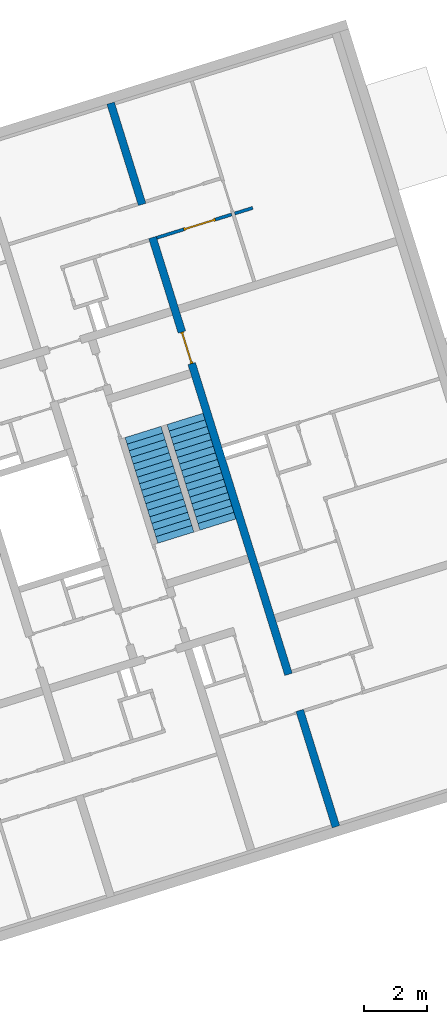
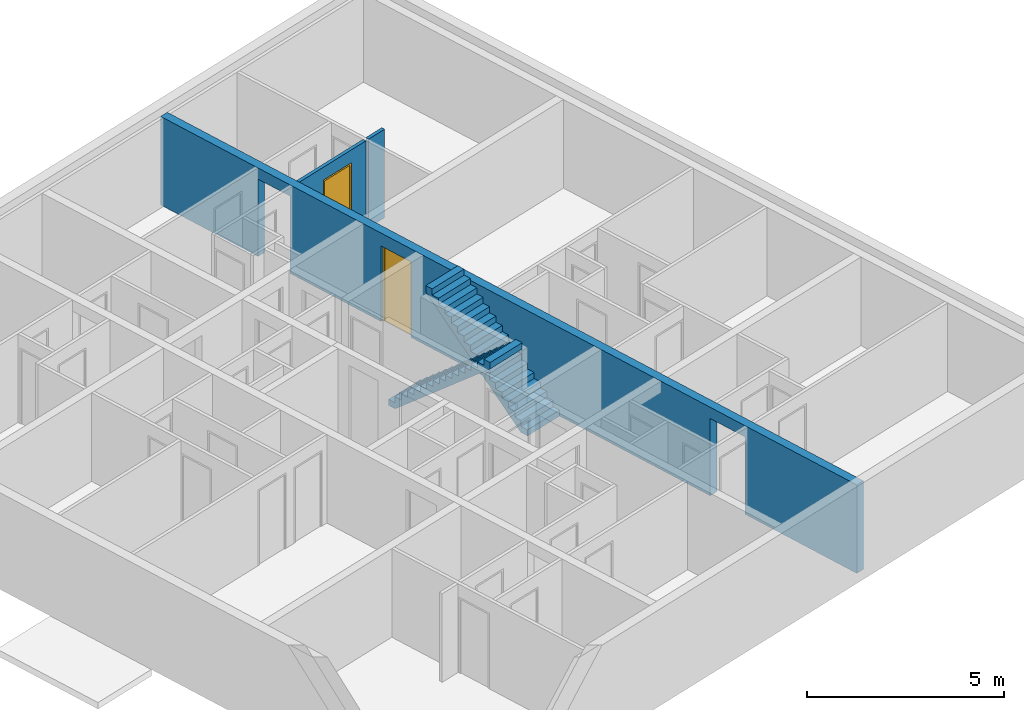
# One storey, part 9 of 9: 2 doors, 2 stair flights, 2 walls, 5 openings, 2 elements without a shape of their own.
"""IFC4 building model written with IfcOpenShell, lengths in metres."""

from ifc_helpers import new_model, entity, si_unit, converted_unit, direction, frame, origin, place, context, subcontext, project, spatial, indexed_curve, outline, extrude, polygons, source, transform, mapped, material, constituent, constituent_set, type_object, type_shapes, element, fill, aggregate, save


model = new_model("IFC4")

# Units and contexts
model_context = context("Model", 3, precision=1e-05, world=origin(), true_north=direction((6.12323399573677e-17, 1.0)))
body_context = subcontext(model_context, "Body", "Model", "MODEL_VIEW")
ifc_project = project(units=[si_unit("LENGTHUNIT", "METRE"), si_unit("AREAUNIT", "SQUARE_METRE"), si_unit("VOLUMEUNIT", "CUBIC_METRE"), converted_unit("PLANEANGLEUNIT", "DEGREE", entity("IfcPlaneAngleMeasure", 0.0174532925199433), si_unit("PLANEANGLEUNIT", "RADIAN"), dimensions=[0, 0, 0, 0, 0, 0, 0])], contexts=[model_context])

# Site, building, storey
site_placement = place(None, frame((13.1347999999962, 11.9886000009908, 0.0), z_axis=(0.0, 0.0, 1.0), x_axis=(0.954770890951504, 0.297342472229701, 0.0)))
site = spatial("IfcSite", under=ifc_project, at=site_placement, Name="Schiehaven", CompositionType="ELEMENT")
building_placement = place(site_placement, origin())
building = spatial("IfcBuilding", under=site, at=building_placement, Name="VORM huis", CompositionType="ELEMENT")
storey_placement = place(building_placement, frame((0.0, 0.0, 15.9)))
storey = spatial("IfcBuildingStorey", under=building, at=storey_placement, Name="05 vijfde verdieping", CompositionType="ELEMENT", Elevation=15.9)

# Wall, openings, door
ifc_material_1 = material(Name="beton_gewapend_ihw", Category="Miscellaneous")
wall_type_1 = type_object("IfcWallType", Name="Basic Wall:28_WA_skelet_wand 250mm_gen", PredefinedType="STANDARD")
wall_1_placement = place(storey_placement, frame((20.0, 29.0999999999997, 0.0), z_axis=(0.0, 0.0, 1.0), x_axis=(0.0, -1.0, 0.0)))
wall_1 = element("IfcWall", 1, at=wall_1_placement, inside=storey, type_object=wall_type_1, material=ifc_material_1, Name="Constructieve wand", ObjectType="Wand", PredefinedType="NOTDEFINED", context=body_context, shape_type="Tessellation", body=[
    polygons([(8.67499999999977, -0.124999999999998, 2.34999999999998), (8.67499999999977, -0.124999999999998, -2.16573425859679e-15), (19.0249999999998, -0.124999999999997, -2.16573425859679e-15), (19.0249999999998, -0.124999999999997, 2.4), (20.2249999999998, -0.125000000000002, 2.4), (20.2249999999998, -0.124999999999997, -2.16573425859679e-15), (24.1, -0.124999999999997, -2.16573425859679e-15), (24.1, -0.124999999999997, 2.75), (7.025, -0.124999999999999, 2.75), (6.775, -0.125, 2.75), (4.33146851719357e-15, -0.124999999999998, 2.75), (4.33146851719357e-15, -0.124999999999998, -2.16573425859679e-15), (3.37499999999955, -0.124999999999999, -2.16573425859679e-15), (3.37499999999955, -0.124999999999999, 2.4), (4.47499999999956, -0.124999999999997, 2.4), (4.47499999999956, -0.124999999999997, -2.16573425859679e-15), (6.775, -0.125, -2.16573425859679e-15), (7.025, -0.124999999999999, -2.16573425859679e-15), (7.62499999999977, -0.124999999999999, -2.16573425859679e-15), (7.62499999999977, -0.124999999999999, 2.34999999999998), (19.0249999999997, 0.125000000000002, -2.16573425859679e-15), (8.67499999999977, 0.125000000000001, -2.16573425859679e-15), (8.67499999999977, 0.125000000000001, 2.34999999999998), (7.62499999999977, 0.125, 2.34999999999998), (7.62499999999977, 0.125, -2.16573425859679e-15), (4.47499999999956, 0.125000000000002, -2.16573425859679e-15), (4.47499999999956, 0.125000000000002, 2.4), (3.37499999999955, 0.125, 2.4), (3.37499999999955, 0.125, -2.16573425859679e-15), (0.0, 0.125000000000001, -2.16573425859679e-15), (0.0, 0.125000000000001, 2.75), (24.1, 0.125000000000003, 2.75), (24.1, 0.125000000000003, -2.16573425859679e-15), (20.2249999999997, 0.125000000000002, -2.16573425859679e-15), (20.2249999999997, 0.125000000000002, 2.4), (19.0249999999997, 0.125000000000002, 2.4)], [[[1, 2, 3, 4, 5, 6, 7, 8, 9, 10, 11, 12, 13, 14, 15, 16, 17, 18, 19, 20]], [[21, 22, 23, 24, 25, 26, 27, 28, 29, 30, 31, 32, 33, 34, 35, 36]], [[12, 30, 29, 13]], [[8, 7, 33, 32]], [[11, 10, 9, 8, 32, 31]], [[12, 11, 31, 30]], [[14, 28, 27, 15]], [[28, 14, 13, 29]], [[15, 27, 26, 16]], [[4, 36, 35, 5]], [[36, 4, 3, 21]], [[5, 35, 34, 6]], [[25, 24, 20, 19]], [[23, 22, 2, 1]], [[24, 23, 1, 20]], [[19, 18, 17, 16, 26, 25]], [[3, 2, 22, 21]], [[33, 7, 6, 34]]], closed=True),
])
opening_1_placement = place(wall_1_placement, origin())
element("IfcOpeningElement", 2, at=opening_1_placement, cuts=wall_1, Name="Constructieve wand", PredefinedType="OPENING", context=body_context, shape_type="SweptSolid", body=[
    extrude(outline(indexed_curve([(-1.2, -0.550000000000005), (1.2, -0.550000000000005), (1.2, 0.550000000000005), (-1.2, 0.550000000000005), (-1.2, -0.550000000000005)], self_intersect=False)), frame((3.92499999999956, -0.125000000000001, 1.2), z_axis=(0.0, 1.0, 0.0), x_axis=(0.0, 0.0, -1.0)), (0.0, 0.0, 1.0), 0.250000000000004),
])
opening_2_placement = place(wall_1_placement, origin())
element("IfcOpeningElement", 3, at=opening_2_placement, cuts=wall_1, Name="Constructieve wand", PredefinedType="OPENING", context=body_context, shape_type="SweptSolid", body=[
    extrude(outline(indexed_curve([(-1.2, -0.599999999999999), (1.2, -0.599999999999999), (1.2, 0.599999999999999), (-1.2, 0.599999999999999), (-1.2, -0.599999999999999)], self_intersect=False)), frame((19.6249999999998, -0.125000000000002, 1.2), z_axis=(0.0, 1.0, 0.0), x_axis=(0.0, 0.0, -1.0)), (0.0, 0.0, 1.0), 0.250000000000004),
])
opening_3_placement = place(wall_1_placement, frame((8.67499999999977, 0.125000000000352, 0.0)))
opening_3 = element("IfcOpeningElement", 4, at=opening_3_placement, cuts=wall_1, Name="Binnendeur", PredefinedType="OPENING", context=body_context, shape_type="SweptSolid", body=[
    extrude(outline(indexed_curve([(2.34999999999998, 1.05), (0.0, 1.05), (0.0, -7.44152288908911e-29), (2.34999999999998, -7.44152288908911e-29), (2.34999999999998, 1.05)], self_intersect=False)), frame((0.0, 0.0, 0.0), z_axis=(0.0, -1.0, 0.0), x_axis=(0.0, 0.0, 1.0)), (0.0, 0.0, 1.0), 0.25),
])
ifc_material_2 = material(Name="PD_a_binnenwandopeningen", Category="Miscellaneous")
ifc_constituent_1 = constituent(ifc_material_2, Name="PD_a_binnenwandopeningen", Category="Miscellaneous")
ifc_material_3 = material(Name="metaal_aluminium_ntb", Category="Miscellaneous")
ifc_constituent_2 = constituent(ifc_material_3, Name="metaal_aluminium_ntb", Category="Miscellaneous")
ifc_constituent_set_1 = constituent_set(constituents=[ifc_constituent_1, ifc_constituent_2])
door_type = type_object("IfcDoorType", Name="32_DO_binnendeur enkel:binnendeur", OperationType="REVOLVING", PredefinedType="DOOR")
shared_shape_1 = source(origin(), body_context, "Body", "SweptSolid", [
    extrude(outline(indexed_curve([(-1.16249999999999, -0.525000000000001), (1.18749999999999, -0.525), (1.18749999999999, 0.525000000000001), (-1.16249999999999, 0.525000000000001), (-1.16249999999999, 0.475), (1.13749999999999, 0.475), (1.13749999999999, -0.475), (-1.16249999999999, -0.475), (-1.16249999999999, -0.525000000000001)], self_intersect=False)), frame((0.525000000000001, 0.0749999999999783, 1.16249999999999), z_axis=(0.0, 1.0, 0.0), x_axis=(0.0, 0.0, 1.0)), (0.0, 0.0, 1.0), 0.1),
    extrude(outline(indexed_curve([(-0.025, -0.475), (0.025, -0.475), (0.025, 0.475), (-0.025, 0.475), (-0.025, -0.475)], self_intersect=False)), frame((0.525000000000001, 0.12499999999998, 0.0), z_axis=(0.0, 0.0, 1.0), x_axis=(0.0, 1.0, 0.0)), (0.0, 0.0, 1.0), 2.29999999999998),
])
door_1_placement = place(opening_3_placement, frame((0.0, 0.0, 0.0), z_axis=(0.0, 0.0, 1.0), x_axis=(-1.0, 0.0, 0.0)))
door_1 = element("IfcDoor", 5, at=door_1_placement, inside=storey, type_object=door_type, material=ifc_constituent_set_1, Name="Binnendeur", ObjectType="Deur", OperationType="REVOLVING", OverallHeight=2.34999999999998, OverallWidth=1.05, PredefinedType="DOOR", context=body_context, shape_type="MappedRepresentation", body=[
    mapped(shared_shape_1, transform((0.0, 0.0, 0.0), scale=1.0)),
])
fill(opening_3, door_1)

ifc_material_4 = material(Name="ntb_ntb_ntb", Category="Miscellaneous")
wall_type_2 = type_object("IfcWallType", Name="Basic Wall:22_WA_afbouw_binnenwand 100mm_gen", PredefinedType="STANDARD")
wall_2_placement = place(storey_placement, frame((20.1250000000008, 24.5750000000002, 0.0)))
wall_2 = element("IfcWall", 6, at=wall_2_placement, inside=storey, type_object=wall_type_2, material=ifc_material_4, Name="Binnenwand", ObjectType="Wand", PredefinedType="NOTDEFINED", context=body_context, shape_type="Tessellation", body=[
    polygons([(3.45443588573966e-16, -0.0499999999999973, 2.75), (3.45443588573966e-16, -0.0499999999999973, 0.0), (0.899999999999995, -0.049999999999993, 0.0), (0.899999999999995, -0.049999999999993, 2.34999999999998), (1.94999999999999, -0.0499999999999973, 2.34999999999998), (1.95, -0.0499999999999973, 0.0), (2.50000000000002, -0.049999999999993, 0.0), (2.50000000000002, -0.049999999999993, 2.75), (-1.52526066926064e-15, 0.0500000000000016, 0.0), (0.899999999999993, 0.050000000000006, 0.0), (-1.52526066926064e-15, 0.0500000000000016, 2.75), (1.94999999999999, 0.0500000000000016, 2.34999999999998), (1.95, 0.0500000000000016, 0.0), (0.899999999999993, 0.050000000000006, 2.34999999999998), (2.50000000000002, 0.050000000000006, 0.0), (2.50000000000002, 0.050000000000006, 2.75)], [[[1, 2, 3, 4, 5, 6, 7, 8]], [[2, 9, 10, 3]], [[2, 1, 11, 9]], [[6, 5, 12, 13]], [[4, 3, 10, 14]], [[5, 4, 14, 12]], [[8, 7, 15, 16]], [[11, 1, 8, 16]], [[6, 13, 15, 7]], [[9, 11, 16, 15, 13, 12, 14, 10]]], closed=True),
    polygons([(3.2, 0.050000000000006, 2.75), (3.2, 0.050000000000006, 0.0), (2.60000000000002, 0.0500000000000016, 0.0), (2.60000000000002, 0.0500000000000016, 2.75), (3.2, -0.049999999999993, 2.75), (3.2, -0.049999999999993, 0.0), (2.60000000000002, -0.0499999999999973, 2.75), (2.60000000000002, -0.0499999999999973, 0.0)], [[[1, 2, 3, 4]], [[5, 6, 2, 1]], [[5, 1, 4, 7]], [[8, 7, 4, 3]], [[2, 6, 8, 3]], [[6, 5, 7, 8]]], closed=True),
])
opening_4_placement = place(storey_placement, frame((20.1250000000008, 24.5750000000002, 0.0)))
element("IfcOpeningElement", 7, at=opening_4_placement, cuts=wall_2, Name="Binnenwand:1", PredefinedType="OPENING", context=body_context, shape_type="SweptSolid", body=[
    extrude(outline(indexed_curve([(-1.375, -0.0499999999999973), (1.375, -0.0499999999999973), (1.375, 0.0500000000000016), (-1.375, 0.0500000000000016), (-1.375, -0.0499999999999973)], self_intersect=False)), frame((2.50000000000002, 0.0, 1.375), z_axis=(1.0, 0.0, 0.0), x_axis=(0.0, 0.0, -1.0)), (0.0, 0.0, 1.0), 0.0999999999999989),
])
opening_5_placement = place(wall_2_placement, frame((0.899999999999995, -0.050000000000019, 0.0)))
opening_5 = element("IfcOpeningElement", 8, at=opening_5_placement, cuts=wall_2, Name="Binnendeur", PredefinedType="OPENING", context=body_context, shape_type="SweptSolid", body=[
    extrude(outline(indexed_curve([(2.34999999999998, 1.05), (0.0, 1.05), (0.0, 0.0), (2.34999999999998, 0.0), (2.34999999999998, 1.05)], self_intersect=False)), frame((0.0, 0.0, 0.0), z_axis=(0.0, 1.0, 0.0), x_axis=(0.0, 0.0, 1.0)), (0.0, 0.0, 1.0), 0.1),
])
ifc_constituent_3 = constituent(ifc_material_2, Name="PD_a_binnenwandopeningen", Category="Miscellaneous")
ifc_constituent_4 = constituent(ifc_material_3, Name="metaal_aluminium_ntb", Category="Miscellaneous")
ifc_constituent_set_2 = constituent_set(constituents=[ifc_constituent_3, ifc_constituent_4])
shared_shape_2 = source(origin(), body_context, "Body", "SweptSolid", [
    extrude(outline(indexed_curve([(-1.16249999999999, -0.525000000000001), (1.18749999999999, -0.525), (1.18749999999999, 0.525), (-1.16249999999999, 0.525), (-1.16249999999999, 0.475), (1.13749999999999, 0.475), (1.13749999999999, -0.475), (-1.16249999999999, -0.475), (-1.16249999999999, -0.525000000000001)], self_intersect=False)), frame((0.525000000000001, 0.0, 1.16249999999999), z_axis=(0.0, 1.0, 0.0), x_axis=(0.0, 0.0, 1.0)), (0.0, 0.0, 1.0), 0.1),
    extrude(outline(indexed_curve([(-0.025, -0.475), (0.025, -0.475), (0.025, 0.475), (-0.025, 0.475), (-0.025, -0.475)], self_intersect=False)), frame((0.525000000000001, 0.0499999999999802, 0.0), z_axis=(0.0, 0.0, 1.0), x_axis=(0.0, 1.0, 0.0)), (0.0, 0.0, 1.0), 2.29999999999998),
])
type_shapes(door_type, [shared_shape_2])
door_2_placement = place(opening_5_placement, origin())
door_2 = element("IfcDoor", 9, at=door_2_placement, inside=storey, type_object=door_type, material=ifc_constituent_set_2, Name="Binnendeur", ObjectType="Deur", OperationType="REVOLVING", OverallHeight=2.34999999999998, OverallWidth=1.05, PredefinedType="DOOR", context=body_context, shape_type="MappedRepresentation", body=[
    mapped(shared_shape_2, transform((0.0, 0.0, 0.0), scale=1.0)),
])
fill(opening_5, door_2)

# Stair, stair flight
stair_type = type_object("IfcStairType", Name="Trap", PredefinedType="STRAIGHT_RUN_STAIR")
stair_1_placement = place(storey_placement, origin())
stair_1 = element("IfcStair", 10, at=stair_1_placement, inside=storey, type_object=stair_type, Name="Hoofdtrap", ObjectType="Precast Stair:NLRS_24_STR_reguliere trap-woonfunctie-breedte 1200mm_gen", PredefinedType="STRAIGHT_RUN_STAIR")
ifc_material_5 = material(Name="beton_gewapend_prefab-element", Category="Miscellaneous")
stair_flight_type = type_object("IfcStairFlightType", Name="Monolithic Run:NLRS_24_STRR_trap-beton prefab-monolithisch-recht_gen_rsf", PredefinedType="STRAIGHT")
stair_flight_1_placement = place(stair_1_placement, frame((18.6750000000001, 15.29, 0.0)))
stair_flight_1 = element("IfcStairFlight", 11, at=stair_flight_1_placement, type_object=stair_flight_type, material=ifc_material_5, Name="Hoofdtrap Run 1", ObjectType="Monolithic Run:NLRS_24_STRR_trap-beton prefab-monolithisch-recht_gen_rsf", PredefinedType="STRAIGHT", context=body_context, shape_type="Tessellation", body=[
    polygons([(0.0, 0.220000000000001, 0.187500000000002), (-3.5527136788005e-15, 0.0, 0.187500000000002), (1.2, 0.0, 0.187500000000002), (1.2, 0.219999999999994, 0.187500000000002), (0.0, 0.22000000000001, 0.0), (-3.5527136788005e-15, 0.0, 0.0), (1.2, 0.0, 0.0), (1.2, 0.219999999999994, 0.0), (0.0, 0.44, 0.374999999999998), (-3.5527136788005e-15, 0.219999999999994, 0.374999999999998), (1.2, 0.219999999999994, 0.374999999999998), (1.2, 0.439999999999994, 0.374999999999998), (0.0, 0.439999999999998, 0.177912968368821), (0.0, 0.231248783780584, 0.0), (1.2, 0.231248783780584, 0.0), (1.2, 0.439999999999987, 0.17791296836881), (0.0, 0.659999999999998, 0.562499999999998), (0.0, 0.439999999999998, 0.562499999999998), (1.2, 0.439999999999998, 0.562499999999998), (1.2, 0.659999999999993, 0.562499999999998), (0.0, 0.660000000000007, 0.365412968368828), (1.2, 0.659999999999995, 0.365412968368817), (0.0, 0.879999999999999, 0.750000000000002), (0.0, 0.659999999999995, 0.750000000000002), (1.2, 0.659999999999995, 0.750000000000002), (1.2, 0.879999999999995, 0.750000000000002), (0.0, 0.879999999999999, 0.552912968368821), (1.2, 0.879999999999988, 0.55291296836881), (3.5527136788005e-15, 1.1, 0.937499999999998), (0.0, 0.880000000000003, 0.937499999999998), (1.2, 0.880000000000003, 0.937499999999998), (1.2, 1.09999999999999, 0.937499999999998), (0.0, 1.1, 0.740412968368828), (1.2, 1.1, 0.740412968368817), (3.5527136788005e-15, 1.32, 1.125), (0.0, 1.09999999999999, 1.125), (1.2, 1.09999999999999, 1.125), (1.2, 1.31999999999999, 1.125), (0.0, 1.32, 0.927912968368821), (1.2, 1.31999999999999, 0.92791296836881), (7.105427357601e-15, 1.54, 1.3125), (0.0, 1.32, 1.3125), (1.2, 1.32, 1.3125), (1.2, 1.54, 1.3125), (7.105427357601e-15, 1.54000000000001, 1.11541296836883), (1.2, 1.54, 1.11541296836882), (7.105427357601e-15, 1.76, 1.5), (0.0, 1.54, 1.5), (1.2, 1.54, 1.5), (1.2, 1.75999999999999, 1.5), (7.105427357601e-15, 1.76, 1.30291296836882), (1.2, 1.75999999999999, 1.30291296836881), (7.105427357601e-15, 1.98, 1.6875), (7.105427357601e-15, 1.76, 1.6875), (1.2, 1.76, 1.6875), (1.2, 1.97999999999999, 1.6875), (7.105427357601e-15, 1.98000000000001, 1.49041296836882), (1.2, 1.97999999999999, 1.49041296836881), (7.105427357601e-15, 2.2, 1.875), (7.105427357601e-15, 1.97999999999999, 1.875), (1.2, 1.97999999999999, 1.875), (1.2, 2.2, 1.875), (7.105427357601e-15, 2.2, 1.67791296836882), (1.2, 2.19999999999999, 1.67791296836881), (1.06581410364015e-14, 2.42, 2.0625), (7.105427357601e-15, 2.2, 2.0625), (1.2, 2.2, 2.0625), (1.2, 2.41999999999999, 2.0625), (1.06581410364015e-14, 2.42000000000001, 1.86541296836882), (1.2, 2.41999999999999, 1.86541296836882), (1.06581410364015e-14, 2.64, 2.25), (7.105427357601e-15, 2.41999999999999, 2.25), (1.2, 2.41999999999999, 2.25), (1.2, 2.63999999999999, 2.25), (1.06581410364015e-14, 2.64, 2.05291296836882), (1.2, 2.63999999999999, 2.05291296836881), (1.06581410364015e-14, 2.86, 2.4375), (1.06581410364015e-14, 2.64, 2.4375), (1.2, 2.64, 2.4375), (1.2, 2.85999999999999, 2.4375), (1.4210854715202e-14, 2.86000000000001, 2.24041296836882), (1.2, 2.85999999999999, 2.24041296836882), (1.06581410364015e-14, 3.08, 2.625), (1.06581410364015e-14, 2.85999999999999, 2.625), (1.2, 2.85999999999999, 2.625), (1.2, 3.07999999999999, 2.625), (1.4210854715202e-14, 3.08, 2.42791296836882), (1.2, 3.07999999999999, 2.42791296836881), (1.4210854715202e-14, 3.3, 2.8125), (1.4210854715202e-14, 3.08, 2.8125), (1.20000000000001, 3.08, 2.8125), (1.2, 3.29999999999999, 2.8125), (1.4210854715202e-14, 3.30000000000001, 2.61541296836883), (1.2, 3.29999999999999, 2.61541296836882), (1.4210854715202e-14, 3.52, 3.0), (1.4210854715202e-14, 3.29999999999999, 3.0), (1.20000000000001, 3.29999999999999, 3.0), (1.20000000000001, 3.51999999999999, 3.0), (7.105427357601e-15, 3.52, 2.80291296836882), (1.2, 3.51999999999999, 2.80291296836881)], [[[1, 2, 3, 4]], [[2, 1, 5, 6]], [[3, 2, 6, 7]], [[4, 3, 7, 8]], [[9, 10, 11, 12]], [[5, 1, 10, 9, 13, 14]], [[1, 4, 11, 10]], [[4, 8, 15, 16, 12, 11]], [[17, 18, 19, 20]], [[18, 17, 21, 13, 9]], [[9, 12, 19, 18]], [[20, 19, 12, 16, 22]], [[23, 24, 25, 26]], [[24, 23, 27, 21, 17]], [[17, 20, 25, 24]], [[26, 25, 20, 22, 28]], [[29, 30, 31, 32]], [[30, 29, 33, 27, 23]], [[23, 26, 31, 30]], [[32, 31, 26, 28, 34]], [[35, 36, 37, 38]], [[36, 35, 39, 33, 29]], [[29, 32, 37, 36]], [[38, 37, 32, 34, 40]], [[41, 42, 43, 44]], [[42, 41, 45, 39, 35]], [[35, 38, 43, 42]], [[44, 43, 38, 40, 46]], [[47, 48, 49, 50]], [[48, 47, 51, 45, 41]], [[41, 44, 49, 48]], [[50, 49, 44, 46, 52]], [[53, 54, 55, 56]], [[54, 53, 57, 51, 47]], [[47, 50, 55, 54]], [[56, 55, 50, 52, 58]], [[59, 60, 61, 62]], [[60, 59, 63, 57, 53]], [[53, 56, 61, 60]], [[62, 61, 56, 58, 64]], [[65, 66, 67, 68]], [[66, 65, 69, 63, 59]], [[59, 62, 67, 66]], [[68, 67, 62, 64, 70]], [[71, 72, 73, 74]], [[72, 71, 75, 69, 65]], [[65, 68, 73, 72]], [[74, 73, 68, 70, 76]], [[77, 78, 79, 80]], [[78, 77, 81, 75, 71]], [[71, 74, 79, 78]], [[80, 79, 74, 76, 82]], [[83, 84, 85, 86]], [[84, 83, 87, 81, 77]], [[77, 80, 85, 84]], [[86, 85, 80, 82, 88]], [[89, 90, 91, 92]], [[90, 89, 93, 87, 83]], [[83, 86, 91, 90]], [[92, 91, 86, 88, 94]], [[95, 96, 97, 98]], [[96, 95, 99, 93, 89]], [[89, 92, 97, 96]], [[98, 97, 92, 94, 100]], [[95, 98, 100, 99]], [[6, 5, 14, 15, 8, 7]], [[15, 14, 13, 21, 27, 33, 39, 45, 51, 57, 63, 69, 75, 81, 87, 93, 99, 100, 94, 88, 82, 76, 70, 64, 58, 52, 46, 40, 34, 28, 22, 16]]], closed=True),
])
aggregate(stair_1, [stair_flight_1])

stair_2_placement = place(storey_placement, origin())
stair_2 = element("IfcStair", 12, at=stair_2_placement, inside=storey, type_object=stair_type, Name="Hoofdtrap", ObjectType="Precast Stair:NLRS_24_STR_reguliere trap-woonfunctie-breedte 1200mm_gen", PredefinedType="STRAIGHT_RUN_STAIR")
stair_flight_2_placement = place(stair_2_placement, frame((17.2750000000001, 15.29, 0.0)))
stair_flight_2 = element("IfcStairFlight", 13, at=stair_flight_2_placement, type_object=stair_flight_type, material=ifc_material_5, Name="Hoofdtrap Run 1", ObjectType="Monolithic Run:NLRS_24_STRR_trap-beton prefab-monolithisch-recht_gen_rsf", PredefinedType="STRAIGHT", context=body_context, shape_type="Tessellation", body=[
    polygons([(1.20000000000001, 3.3, 0.187500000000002), (1.20000000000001, 3.52, 0.187500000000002), (1.4210854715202e-14, 3.52, 0.187500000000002), (1.4210854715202e-14, 3.30000000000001, 0.187500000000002), (1.20000000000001, 3.3, 0.0), (1.20000000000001, 3.52, 0.0), (1.4210854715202e-14, 3.52, 0.0), (1.4210854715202e-14, 3.30000000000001, 0.0), (1.20000000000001, 3.08, 0.374999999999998), (1.20000000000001, 3.30000000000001, 0.374999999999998), (1.4210854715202e-14, 3.30000000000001, 0.374999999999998), (1.4210854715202e-14, 3.08000000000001, 0.374999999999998), (1.20000000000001, 3.08, 0.177912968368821), (1.20000000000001, 3.28875121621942, 0.0), (1.4210854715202e-14, 3.28875121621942, 0.0), (1.4210854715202e-14, 3.08000000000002, 0.17791296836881), (1.20000000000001, 2.86, 0.562499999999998), (1.20000000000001, 3.08, 0.562499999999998), (1.06581410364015e-14, 3.08, 0.562499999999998), (1.06581410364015e-14, 2.86000000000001, 0.562499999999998), (1.20000000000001, 2.86, 0.365412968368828), (1.06581410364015e-14, 2.86000000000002, 0.365412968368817), (1.20000000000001, 2.64, 0.750000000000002), (1.20000000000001, 2.86000000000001, 0.750000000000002), (1.06581410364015e-14, 2.86000000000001, 0.750000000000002), (1.06581410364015e-14, 2.64000000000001, 0.750000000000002), (1.20000000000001, 2.64000000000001, 0.552912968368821), (1.06581410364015e-14, 2.64000000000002, 0.55291296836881), (1.20000000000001, 2.42, 0.937499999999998), (1.20000000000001, 2.64, 0.937499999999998), (1.06581410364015e-14, 2.64, 0.937499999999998), (1.06581410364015e-14, 2.42000000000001, 0.937499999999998), (1.20000000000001, 2.42, 0.740412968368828), (1.06581410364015e-14, 2.42000000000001, 0.740412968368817), (1.20000000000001, 2.2, 1.125), (1.20000000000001, 2.42000000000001, 1.125), (1.06581410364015e-14, 2.42000000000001, 1.125), (1.06581410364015e-14, 2.2, 1.125), (1.20000000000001, 2.2, 0.927912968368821), (1.06581410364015e-14, 2.20000000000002, 0.92791296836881), (1.20000000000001, 1.98, 1.3125), (1.20000000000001, 2.2, 1.3125), (7.105427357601e-15, 2.2, 1.3125), (7.105427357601e-15, 1.98000000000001, 1.3125), (1.20000000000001, 1.98, 1.11541296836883), (7.105427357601e-15, 1.98000000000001, 1.11541296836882), (1.20000000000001, 1.76, 1.5), (1.20000000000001, 1.98000000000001, 1.5), (7.105427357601e-15, 1.98000000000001, 1.5), (7.105427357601e-15, 1.76000000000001, 1.5), (1.20000000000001, 1.76, 1.30291296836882), (7.105427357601e-15, 1.76000000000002, 1.30291296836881), (1.2, 1.54, 1.6875), (1.20000000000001, 1.76, 1.6875), (7.105427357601e-15, 1.76, 1.6875), (7.105427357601e-15, 1.54000000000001, 1.6875), (1.2, 1.54, 1.49041296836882), (7.105427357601e-15, 1.54000000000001, 1.49041296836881), (1.2, 1.32, 1.875), (1.20000000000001, 1.54000000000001, 1.875), (7.105427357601e-15, 1.54000000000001, 1.875), (7.105427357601e-15, 1.32000000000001, 1.875), (1.2, 1.32, 1.67791296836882), (7.105427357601e-15, 1.32000000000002, 1.67791296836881), (1.2, 1.1, 2.0625), (1.2, 1.32, 2.0625), (7.105427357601e-15, 1.32, 2.0625), (3.5527136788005e-15, 1.10000000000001, 2.0625), (1.2, 1.1, 1.86541296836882), (7.105427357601e-15, 1.10000000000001, 1.86541296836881), (1.2, 0.880000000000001, 2.25), (1.2, 1.10000000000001, 2.25), (7.105427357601e-15, 1.10000000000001, 2.25), (3.5527136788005e-15, 0.880000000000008, 2.25), (1.2, 0.880000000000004, 2.05291296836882), (0.0, 0.880000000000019, 2.05291296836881), (1.2, 0.660000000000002, 2.4375), (1.2, 0.880000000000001, 2.4375), (0.0, 0.880000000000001, 2.4375), (0.0, 0.660000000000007, 2.4375), (1.2, 0.659999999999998, 2.24041296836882), (0.0, 0.660000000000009, 2.24041296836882), (1.2, 0.440000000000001, 2.625), (1.2, 0.660000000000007, 2.625), (0.0, 0.660000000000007, 2.625), (0.0, 0.440000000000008, 2.625), (1.2, 0.440000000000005, 2.42791296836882), (0.0, 0.440000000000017, 2.42791296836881), (1.2, 0.220000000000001, 2.8125), (1.2, 0.440000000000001, 2.8125), (0.0, 0.440000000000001, 2.8125), (0.0, 0.220000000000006, 2.8125), (1.2, 0.219999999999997, 2.61541296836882), (0.0, 0.220000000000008, 2.61541296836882), (1.2, 1.77635683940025e-15, 3.0), (1.2, 0.220000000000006, 3.0), (0.0, 0.220000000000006, 3.0), (0.0, 1.24344978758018e-14, 3.0), (1.2, 1.77635683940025e-15, 2.80291296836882), (0.0, 1.24344978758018e-14, 2.80291296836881)], [[[1, 2, 3, 4]], [[2, 1, 5, 6]], [[3, 2, 6, 7]], [[4, 3, 7, 8]], [[9, 10, 11, 12]], [[5, 1, 10, 9, 13, 14]], [[1, 4, 11, 10]], [[4, 8, 15, 16, 12, 11]], [[17, 18, 19, 20]], [[18, 17, 21, 13, 9]], [[9, 12, 19, 18]], [[20, 19, 12, 16, 22]], [[23, 24, 25, 26]], [[24, 23, 27, 21, 17]], [[17, 20, 25, 24]], [[26, 25, 20, 22, 28]], [[29, 30, 31, 32]], [[30, 29, 33, 27, 23]], [[23, 26, 31, 30]], [[32, 31, 26, 28, 34]], [[35, 36, 37, 38]], [[36, 35, 39, 33, 29]], [[29, 32, 37, 36]], [[38, 37, 32, 34, 40]], [[41, 42, 43, 44]], [[42, 41, 45, 39, 35]], [[35, 38, 43, 42]], [[44, 43, 38, 40, 46]], [[47, 48, 49, 50]], [[48, 47, 51, 45, 41]], [[41, 44, 49, 48]], [[50, 49, 44, 46, 52]], [[53, 54, 55, 56]], [[54, 53, 57, 51, 47]], [[47, 50, 55, 54]], [[56, 55, 50, 52, 58]], [[59, 60, 61, 62]], [[60, 59, 63, 57, 53]], [[53, 56, 61, 60]], [[62, 61, 56, 58, 64]], [[65, 66, 67, 68]], [[66, 65, 69, 63, 59]], [[59, 62, 67, 66]], [[68, 67, 62, 64, 70]], [[71, 72, 73, 74]], [[72, 71, 75, 69, 65]], [[65, 68, 73, 72]], [[74, 73, 68, 70, 76]], [[77, 78, 79, 80]], [[78, 77, 81, 75, 71]], [[71, 74, 79, 78]], [[80, 79, 74, 76, 82]], [[83, 84, 85, 86]], [[84, 83, 87, 81, 77]], [[77, 80, 85, 84]], [[86, 85, 80, 82, 88]], [[89, 90, 91, 92]], [[90, 89, 93, 87, 83]], [[83, 86, 91, 90]], [[92, 91, 86, 88, 94]], [[95, 96, 97, 98]], [[96, 95, 99, 93, 89]], [[89, 92, 97, 96]], [[98, 97, 92, 94, 100]], [[95, 98, 100, 99]], [[6, 5, 14, 15, 8, 7]], [[15, 14, 13, 21, 27, 33, 39, 45, 51, 57, 63, 69, 75, 81, 87, 93, 99, 100, 94, 88, 82, 76, 70, 64, 58, 52, 46, 40, 34, 28, 22, 16]]], closed=True),
])
aggregate(stair_2, [stair_flight_2])

save(model, "model.ifc")
